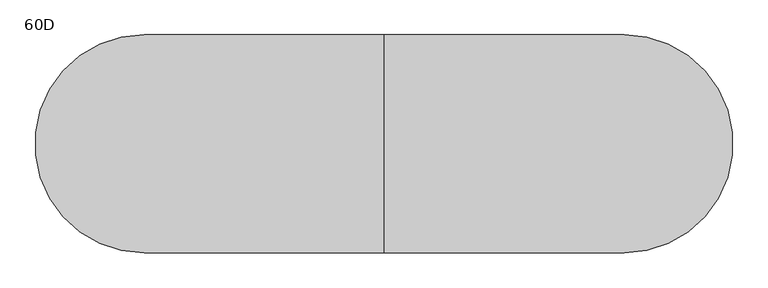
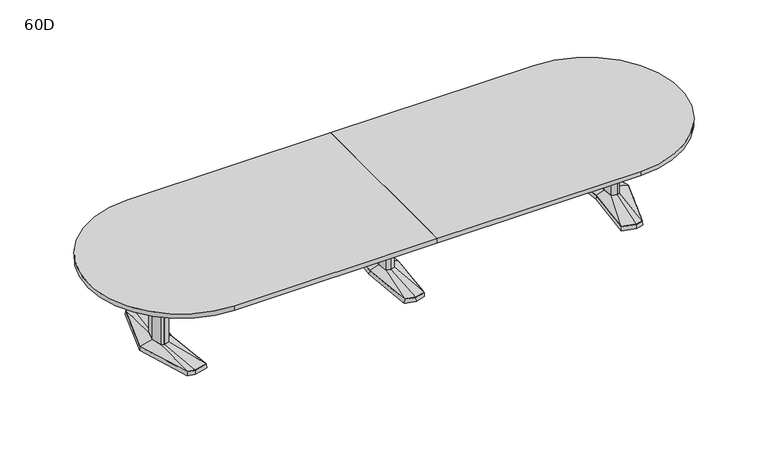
"""IFC4 building model written with IfcOpenShell, lengths in millimetres: furniture geometry, Coalesse_AM_Table_Conference_ETable2_Racetrack_16ft_AluminiumBase : 60D."""

from ifc_helpers import new_model, si_unit, point, frame, frame_2d, origin, place, context, project, spatial, polyline, circle_curve, trimmed, segment, composite_curve, outline, extrude, faceted_brep, source, transform, mapped, element, save
from ifc_brep_helpers import plane_surface, spline_surface, advanced_brep


def furniture_60d_3c0d05f1(model_context):
    return source(origin(), model_context, "Body", "SolidModel", [
        faceted_brep([(-81.2333791, -433.8053819, 38.1), (0.0, -455.556576, 38.1), (81.2333791, -433.8053819, 38.1), (119.0564774, 0.0, 38.1), (81.2333791, 433.8053819, 38.1), (0.0, 455.556576, 38.1), (-81.2333791, 433.8053819, 38.1), (-119.0564774, 0.0, 38.1), (-82.7182795, -435.0512063, 3.175), (-120.65, 0.0, 3.175), (-82.7182795, 435.0512063, 3.175), (0.0, 457.2, 3.175), (82.7182795, 435.0512063, 3.175), (120.65, 0.0, 3.175), (82.7182795, -435.0512063, 3.175), (0.0, -457.2, 3.175), (0.0, 429.2617927, 3.175), (-77.9676806, 408.3850278, 3.175), (-74.7019821, 382.9646737, 3.175), (0.0, 402.9670094, 3.175), (74.7019821, 382.9646737, 3.175), (77.9676806, 408.3850278, 3.175), (0.0, -429.2617927, 3.175), (77.9676806, -408.3850278, 3.175), (74.7019821, -382.9646737, 3.175), (0.0, -402.9670094, 3.175), (-74.7019821, -382.9646737, 3.175), (-77.9676806, -408.3850278, 3.175), (-71.8574262, 114.6326257, 3.175), (-82.5426076, 0.0, 3.175), (-71.8574262, -114.6326257, 3.175), (0.0, -133.8761372, 3.175), (71.8574262, -114.6326257, 3.175), (82.5426076, 0.0, 3.175), (71.8574262, 114.6326257, 3.175), (0.0, 133.8761372, 3.175), (0.0, 429.2617927, 0.0), (77.9676806, 408.3850278, 0.0), (74.7019821, 382.9646737, 0.0), (0.0, 402.9670094, 0.0), (-74.7019821, 382.9646737, 0.0), (-77.9676806, 408.3850278, 0.0), (0.0, -429.2617927, 0.0), (-77.9676806, -408.3850278, 0.0), (-74.7019821, -382.9646737, 0.0), (0.0, -402.9670094, 0.0), (74.7019821, -382.9646737, 0.0), (77.9676806, -408.3850278, 0.0), (-71.8574262, 114.6326257, 0.0), (0.0, 133.8761372, 0.0), (71.8574262, 114.6326257, 0.0), (82.5426076, 0.0, 0.0), (71.8574262, -114.6326257, 0.0), (0.0, -133.8761372, 0.0), (-71.8574262, -114.6326257, 0.0), (-82.5426076, 0.0, 0.0)], [[[0, 1, 2, 3, 4, 5, 6, 7]], [[8, 9, 10, 11, 12, 13, 14, 15], [16, 17, 18, 19, 20, 21], [22, 23, 24, 25, 26, 27], [28, 29, 30, 31, 32, 33, 34, 35]], [[1, 0, 8, 15]], [[2, 1, 15, 14]], [[3, 2, 14, 13]], [[4, 3, 13, 12]], [[5, 4, 12, 11]], [[6, 5, 11, 10]], [[7, 6, 10, 9]], [[0, 7, 9, 8]], [[36, 37, 38, 39, 40, 41]], [[42, 43, 44, 45, 46, 47]], [[48, 49, 50, 51, 52, 53, 54, 55]], [[36, 41, 17, 16]], [[41, 40, 18, 17]], [[40, 39, 19, 18]], [[39, 38, 20, 19]], [[38, 37, 21, 20]], [[37, 36, 16, 21]], [[42, 47, 23, 22]], [[47, 46, 24, 23]], [[46, 45, 25, 24]], [[45, 44, 26, 25]], [[44, 43, 27, 26]], [[43, 42, 22, 27]], [[48, 55, 29, 28]], [[55, 54, 30, 29]], [[54, 53, 31, 30]], [[53, 52, 32, 31]], [[52, 51, 33, 32]], [[51, 50, 34, 33]], [[50, 49, 35, 34]], [[49, 48, 28, 35]]]),
        faceted_brep([(-36.3832834, 84.6900825, 698.5), (-44.2774487, 0.0, 698.5), (-36.3832834, -84.6900825, 698.5), (0.0, -94.4335728, 698.5), (36.3832834, -84.6900825, 698.5), (44.2774487, 0.0, 698.5), (36.3832834, 84.6900825, 698.5), (0.0, 94.4335728, 698.5), (-36.3832834, 84.6900825, 63.5), (0.0, 94.4335728, 63.5), (36.3832834, 84.6900825, 63.5), (44.2774487, 0.0, 63.5), (36.3832834, -84.6900825, 63.5), (0.0, -94.4335728, 63.5), (-36.3832834, -84.6900825, 63.5), (-44.2774487, 0.0, 63.5)], [[[0, 1, 2, 3, 4, 5, 6, 7]], [[8, 9, 10, 11, 12, 13, 14, 15]], [[1, 0, 8, 15]], [[2, 1, 15, 14]], [[3, 2, 14, 13]], [[4, 3, 13, 12]], [[5, 4, 12, 11]], [[6, 5, 11, 10]], [[7, 6, 10, 9]], [[0, 7, 9, 8]]]),
        advanced_brep(
        [(-36.3832834, 84.6900825, 63.5), (-44.2774487, 0.0, 63.5), (-36.3832834, -84.6900825, 63.5), (0.0, -94.4335728, 63.5), (36.3832834, -84.6900825, 63.5), (44.2774487, 0.0, 63.5), (36.3832834, 84.6900825, 63.5), (0.0, 94.4335728, 63.5), (-81.2333791, 433.8053819, 38.1), (0.0, 455.556576, 38.1), (81.2333791, 433.8053819, 38.1), (119.0564774, 0.0, 38.1), (81.2333791, -433.8053819, 38.1), (0.0, -455.556576, 38.1), (-81.2333791, -433.8053819, 38.1), (-119.0564774, 0.0, 38.1)],
        [
            (0, 1),
            (1, 2),
            (2, 3),
            (3, 4),
            (4, 5),
            (5, 6),
            (6, 7),
            (7, 0),
            (8, 9),
            (9, 10),
            (10, 11),
            (11, 12),
            (12, 13),
            (13, 14),
            (14, 15),
            (15, 8),
            (15, 1),
            (0, 8),
            (14, 2),
            (13, 3),
            (12, 4),
            (11, 5),
            (10, 6),
            (9, 7),
        ],
        [
            plane_surface(frame((0.0, 0.0, 63.5), z_axis=(0.0, 0.0, 1.0000000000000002), x_axis=(-0.9659615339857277, -0.25868574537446, 0.0))),
            plane_surface(frame((0.0, 0.0, 38.1), z_axis=(0.0, 0.0, -1.0000000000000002), x_axis=(-0.9659615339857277, -0.25868574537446, 0.0))),
            spline_surface(1, 1, [[(-81.2333791, 433.8053819, 38.1), (-36.3832834, 84.6900825, 63.5)], [(-119.0564774, 0.0, 38.1), (-44.2774487, 0.0, 63.5)]], [2, 2], [2, 2], [0.0, 1.0], [0.0, 1.0]),
            spline_surface(1, 1, [[(-119.0564774, 0.0, 38.1), (-44.2774487, 0.0, 63.5)], [(-81.2333791, -433.8053819, 38.1), (-36.3832834, -84.6900825, 63.5)]], [2, 2], [2, 2], [0.0, 1.0], [0.0, 1.0]),
            spline_surface(1, 1, [[(-81.2333791, -433.8053819, 38.1), (-36.3832834, -84.6900825, 63.5)], [(0.0, -455.556576, 38.1), (0.0, -94.4335728, 63.5)]], [2, 2], [2, 2], [0.0, 1.0], [0.0, 1.0]),
            spline_surface(1, 1, [[(0.0, -455.556576, 38.1), (0.0, -94.4335728, 63.5)], [(81.2333791, -433.8053819, 38.1), (36.3832834, -84.6900825, 63.5)]], [2, 2], [2, 2], [0.0, 1.0], [0.0, 1.0]),
            spline_surface(1, 1, [[(81.2333791, -433.8053819, 38.1), (36.3832834, -84.6900825, 63.5)], [(119.0564774, 0.0, 38.1), (44.2774487, 0.0, 63.5)]], [2, 2], [2, 2], [0.0, 1.0], [0.0, 1.0]),
            spline_surface(1, 1, [[(119.0564774, 0.0, 38.1), (44.2774487, 0.0, 63.5)], [(81.2333791, 433.8053819, 38.1), (36.3832834, 84.6900825, 63.5)]], [2, 2], [2, 2], [0.0, 1.0], [0.0, 1.0]),
            spline_surface(1, 1, [[(81.2333791, 433.8053819, 38.1), (36.3832834, 84.6900825, 63.5)], [(0.0, 455.556576, 38.1), (0.0, 94.4335728, 63.5)]], [2, 2], [2, 2], [0.0, 1.0], [0.0, 1.0]),
            spline_surface(1, 1, [[(0.0, 455.556576, 38.1), (0.0, 94.4335728, 63.5)], [(-81.2333791, 433.8053819, 38.1), (-36.3832834, 84.6900825, 63.5)]], [2, 2], [2, 2], [0.0, 1.0], [0.0, 1.0]),
        ],
        [
            (0, [[1, 2, 3, 4, 5, 6, 7, 8]]),
            (1, [[9, 10, 11, 12, 13, 14, 15, 16]]),
            (2, [[-16, 17, -1, 18]]),
            (3, [[-15, 19, -2, -17]]),
            (4, [[-14, 20, -3, -19]]),
            (5, [[-13, 21, -4, -20]]),
            (6, [[-12, 22, -5, -21]]),
            (7, [[-11, 23, -6, -22]]),
            (8, [[-10, 24, -7, -23]]),
            (9, [[-9, -18, -8, -24]]),
        ],
    ),
        faceted_brep([(1820.2306835, 455.5848221, 38.1), (1710.6531277, 426.2263816, 38.1), (1751.8163717, 0.0, 38.1), (1710.6531277, -426.2263816, 38.1), (1820.2306835, -455.5848221, 38.1), (1876.3570396, -440.5478297, 38.1), (2013.6684269, 0.0, 38.1), (1876.3570396, 440.5478297, 38.1), (1820.2306754, 457.2283104, 3.175), (1877.6124472, 441.8549756, 3.175), (2015.33125, 0.0, 3.175), (1877.6124472, -441.8549756, 3.175), (1820.2306754, -457.2283104, 3.175), (1708.94375, -427.4118891, 3.175), (1750.2214856, 0.0, 3.175), (1708.94375, 427.4118891, 3.175), (1823.820115, 428.3273875, 3.175), (1718.7718228, 402.1057253, 3.175), (1726.890518, 377.985069, 3.175), (1827.4095466, 401.0699529, 3.175), (1877.9691725, 387.524361, 3.175), (1877.1631061, 414.0360954, 3.175), (1823.820115, -428.3273875, 3.175), (1877.1631061, -414.0360954, 3.175), (1877.9691725, -387.524361, 3.175), (1827.4095466, -401.0699529, 3.175), (1726.890518, -377.985069, 3.175), (1718.7718228, -402.1057253, 3.175), (1950.4153621, 0.0, 3.175), (1918.1459611, 120.4193755, 3.175), (1869.4987222, 133.471665, 3.175), (1789.6180526, 119.4176561, 3.175), (1778.4868466, 0.0, 3.175), (1789.6180526, -119.4176561, 3.175), (1869.4987222, -133.471665, 3.175), (1918.1459611, -120.4193755, 3.175), (1823.820115, 428.3273875, 0.0), (1877.1631061, 414.0360954, 0.0), (1877.9691725, 387.524361, 0.0), (1827.4095466, 401.0699529, 0.0), (1726.890518, 377.985069, 0.0), (1718.7718228, 402.1057253, 0.0), (1823.820115, -428.3273875, 0.0), (1718.7718228, -402.1057253, 0.0), (1726.890518, -377.985069, 0.0), (1827.4095466, -401.0699529, 0.0), (1877.9691725, -387.524361, 0.0), (1877.1631061, -414.0360954, 0.0), (1950.4153621, 0.0, 0.0), (1918.1459611, -120.4193755, 0.0), (1869.4987222, -133.471665, 0.0), (1789.6180526, -119.4176561, 0.0), (1778.4868466, 0.0, 0.0), (1789.6180526, 119.4176561, 0.0), (1869.4987222, 133.471665, 0.0), (1918.1459611, 120.4193755, 0.0)], [[[0, 1, 2, 3, 4, 5, 6, 7]], [[8, 9, 10, 11, 12, 13, 14, 15], [16, 17, 18, 19, 20, 21], [22, 23, 24, 25, 26, 27], [28, 29, 30, 31, 32, 33, 34, 35]], [[7, 9, 8, 0]], [[6, 10, 9, 7]], [[5, 11, 10, 6]], [[4, 12, 11, 5]], [[3, 13, 12, 4]], [[2, 14, 13, 3]], [[1, 15, 14, 2]], [[0, 8, 15, 1]], [[36, 37, 38, 39, 40, 41]], [[42, 43, 44, 45, 46, 47]], [[48, 49, 50, 51, 52, 53, 54, 55]], [[36, 16, 21, 37]], [[37, 21, 20, 38]], [[38, 20, 19, 39]], [[39, 19, 18, 40]], [[40, 18, 17, 41]], [[41, 17, 16, 36]], [[42, 22, 27, 43]], [[43, 27, 26, 44]], [[44, 26, 25, 45]], [[45, 25, 24, 46]], [[46, 24, 23, 47]], [[47, 23, 22, 42]], [[48, 28, 35, 49]], [[49, 35, 34, 50]], [[50, 34, 33, 51]], [[51, 33, 32, 52]], [[52, 32, 31, 53]], [[53, 31, 30, 54]], [[54, 30, 29, 55]], [[55, 29, 28, 48]]]),
        faceted_brep([(1910.9710836, 0.0, 698.5), (1887.0358546, 89.3188359, 698.5), (1870.1824984, 93.8406728, 698.5), (1867.7826511, 94.4845635, 698.5), (1824.855146, 86.9320037, 698.5), (1816.7520056, 0.0, 698.5), (1824.855146, -86.9320037, 698.5), (1867.7826511, -94.4845635, 698.5), (1870.1824984, -93.8406728, 698.5), (1887.0358546, -89.3188359, 698.5), (1910.9710836, 0.0, 63.5), (1887.0358546, -89.3188359, 63.5), (1870.1824984, -93.8406728, 63.5), (1867.7826511, -94.4845635, 63.5), (1824.855146, -86.9320037, 63.5), (1816.7520056, 0.0, 63.5), (1824.855146, 86.9320037, 63.5), (1867.7826511, 94.4845635, 63.5), (1870.1824984, 93.8406728, 63.5), (1887.0358546, 89.3188359, 63.5)], [[[0, 1, 2, 3, 4, 5, 6, 7, 8, 9]], [[10, 11, 12, 13, 14, 15, 16, 17, 18, 19]], [[9, 11, 10, 0]], [[8, 12, 11, 9]], [[7, 13, 12, 8]], [[6, 14, 13, 7]], [[5, 15, 14, 6]], [[4, 16, 15, 5]], [[3, 17, 16, 4]], [[2, 18, 17, 3]], [[1, 19, 18, 2]], [[0, 10, 19, 1]]]),
        advanced_brep(
        [(1867.7826511, 94.4845635, 63.5), (1824.855146, 86.9320037, 63.5), (1816.7520056, 0.0, 63.5), (1824.855146, -86.9320037, 63.5), (1867.7826511, -94.4845635, 63.5), (1887.0358546, -89.3188359, 63.5), (1910.9710836, 0.0, 63.5), (1887.0358546, 89.3188359, 63.5), (1820.2306835, 455.5848221, 38.1), (1876.3570396, 440.5478297, 38.1), (2013.6684269, 0.0, 38.1), (1876.3570396, -440.5478297, 38.1), (1820.2306835, -455.5848221, 38.1), (1710.6531277, -426.2263816, 38.1), (1751.8163717, 0.0, 38.1), (1710.6531277, 426.2263816, 38.1)],
        [
            (0, 1),
            (1, 2),
            (2, 3),
            (3, 4),
            (4, 5),
            (5, 6),
            (6, 7),
            (7, 0),
            (8, 9),
            (9, 10),
            (10, 11),
            (11, 12),
            (12, 13),
            (13, 14),
            (14, 15),
            (15, 8),
            (8, 0),
            (7, 9),
            (6, 10),
            (5, 11),
            (4, 12),
            (3, 13),
            (2, 14),
            (1, 15),
        ],
        [
            plane_surface(frame((1860.8837991, 0.0, 63.5), z_axis=(0.0, 0.0, 1.0), x_axis=(-0.25884244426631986, -0.9659195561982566, 0.0))),
            plane_surface(frame((1822.4958125, 0.0, 38.1), z_axis=(0.0, 0.0, -1.0), x_axis=(-0.25884244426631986, -0.9659195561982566, 0.0))),
            spline_surface(1, 1, [[(1820.2306835, 455.5848221, 38.1), (1876.3570396, 440.5478297, 38.1)], [(1867.7826511, 94.4845635, 63.5), (1887.0358546, 89.3188359, 63.5)]], [2, 2], [2, 2], [0.0, 1.0], [0.0, 1.0]),
            spline_surface(1, 1, [[(1876.3570396, 440.5478297, 38.1), (2013.6684269, 0.0, 38.1)], [(1887.0358546, 89.3188359, 63.5), (1910.9710836, 0.0, 63.5)]], [2, 2], [2, 2], [0.0, 1.0], [0.0, 1.0]),
            spline_surface(1, 1, [[(2013.6684269, 0.0, 38.1), (1876.3570396, -440.5478297, 38.1)], [(1910.9710836, 0.0, 63.5), (1887.0358546, -89.3188359, 63.5)]], [2, 2], [2, 2], [0.0, 1.0], [0.0, 1.0]),
            spline_surface(1, 1, [[(1876.3570396, -440.5478297, 38.1), (1820.2306835, -455.5848221, 38.1)], [(1887.0358546, -89.3188359, 63.5), (1867.7826511, -94.4845635, 63.5)]], [2, 2], [2, 2], [0.0, 1.0], [0.0, 1.0]),
            spline_surface(1, 1, [[(1820.2306835, -455.5848221, 38.1), (1710.6531277, -426.2263816, 38.1)], [(1867.7826511, -94.4845635, 63.5), (1824.855146, -86.9320037, 63.5)]], [2, 2], [2, 2], [0.0, 1.0], [0.0, 1.0]),
            spline_surface(1, 1, [[(1710.6531277, -426.2263816, 38.1), (1751.8163717, 0.0, 38.1)], [(1824.855146, -86.9320037, 63.5), (1816.7520056, 0.0, 63.5)]], [2, 2], [2, 2], [0.0, 1.0], [0.0, 1.0]),
            spline_surface(1, 1, [[(1751.8163717, 0.0, 38.1), (1710.6531277, 426.2263816, 38.1)], [(1816.7520056, 0.0, 63.5), (1824.855146, 86.9320037, 63.5)]], [2, 2], [2, 2], [0.0, 1.0], [0.0, 1.0]),
            spline_surface(1, 1, [[(1710.6531277, 426.2263816, 38.1), (1820.2306835, 455.5848221, 38.1)], [(1824.855146, 86.9320037, 63.5), (1867.7826511, 94.4845635, 63.5)]], [2, 2], [2, 2], [0.0, 1.0], [0.0, 1.0]),
        ],
        [
            (0, [[1, 2, 3, 4, 5, 6, 7, 8]]),
            (1, [[9, 10, 11, 12, 13, 14, 15, 16]]),
            (2, [[17, -8, 18, -9]]),
            (3, [[-18, -7, 19, -10]]),
            (4, [[-19, -6, 20, -11]]),
            (5, [[-20, -5, 21, -12]]),
            (6, [[-21, -4, 22, -13]]),
            (7, [[-22, -3, 23, -14]]),
            (8, [[-23, -2, 24, -15]]),
            (9, [[-24, -1, -17, -16]]),
        ],
    ),
        faceted_brep([(-1820.2306835, 455.5848221, 38.1), (-1876.3570396, 440.5478297, 38.1), (-2013.6684269, 0.0, 38.1), (-1876.3570396, -440.5478297, 38.1), (-1820.2306835, -455.5848221, 38.1), (-1710.6531277, -426.2263816, 38.1), (-1751.8163717, 0.0, 38.1), (-1710.6531277, 426.2263816, 38.1), (-1820.2306754, 457.2283104, 3.175), (-1708.94375, 427.4118891, 3.175), (-1750.2214856, 0.0, 3.175), (-1708.94375, -427.4118891, 3.175), (-1820.2306754, -457.2283104, 3.175), (-1877.6124472, -441.8549756, 3.175), (-2015.33125, 0.0, 3.175), (-1877.6124472, 441.8549756, 3.175), (-1823.820115, 428.3273875, 3.175), (-1877.1631061, 414.0360954, 3.175), (-1877.9691725, 387.524361, 3.175), (-1827.4095466, 401.0699529, 3.175), (-1726.890518, 377.985069, 3.175), (-1718.7718228, 402.1057253, 3.175), (-1823.820115, -428.3273875, 3.175), (-1718.7718228, -402.1057253, 3.175), (-1726.890518, -377.985069, 3.175), (-1827.4095466, -401.0699529, 3.175), (-1877.9691725, -387.524361, 3.175), (-1877.1631061, -414.0360954, 3.175), (-1950.4153621, 0.0, 3.175), (-1918.1459611, -120.4193755, 3.175), (-1869.4987222, -133.471665, 3.175), (-1789.6180526, -119.4176561, 3.175), (-1778.4868466, 0.0, 3.175), (-1789.6180526, 119.4176561, 3.175), (-1869.4987222, 133.471665, 3.175), (-1918.1459611, 120.4193755, 3.175), (-1823.820115, 428.3273875, 0.0), (-1718.7718228, 402.1057253, 0.0), (-1726.890518, 377.985069, 0.0), (-1827.4095466, 401.0699529, 0.0), (-1877.9691725, 387.524361, 0.0), (-1877.1631061, 414.0360954, 0.0), (-1823.820115, -428.3273875, 0.0), (-1877.1631061, -414.0360954, 0.0), (-1877.9691725, -387.524361, 0.0), (-1827.4095466, -401.0699529, 0.0), (-1726.890518, -377.985069, 0.0), (-1718.7718228, -402.1057253, 0.0), (-1950.4153621, 0.0, 0.0), (-1918.1459611, 120.4193755, 0.0), (-1869.4987222, 133.471665, 0.0), (-1789.6180526, 119.4176561, 0.0), (-1778.4868466, 0.0, 0.0), (-1789.6180526, -119.4176561, 0.0), (-1869.4987222, -133.471665, 0.0), (-1918.1459611, -120.4193755, 0.0)], [[[0, 1, 2, 3, 4, 5, 6, 7]], [[8, 9, 10, 11, 12, 13, 14, 15], [16, 17, 18, 19, 20, 21], [22, 23, 24, 25, 26, 27], [28, 29, 30, 31, 32, 33, 34, 35]], [[1, 0, 8, 15]], [[2, 1, 15, 14]], [[3, 2, 14, 13]], [[4, 3, 13, 12]], [[5, 4, 12, 11]], [[6, 5, 11, 10]], [[7, 6, 10, 9]], [[0, 7, 9, 8]], [[36, 37, 38, 39, 40, 41]], [[42, 43, 44, 45, 46, 47]], [[48, 49, 50, 51, 52, 53, 54, 55]], [[36, 41, 17, 16]], [[41, 40, 18, 17]], [[40, 39, 19, 18]], [[39, 38, 20, 19]], [[38, 37, 21, 20]], [[37, 36, 16, 21]], [[42, 47, 23, 22]], [[47, 46, 24, 23]], [[46, 45, 25, 24]], [[45, 44, 26, 25]], [[44, 43, 27, 26]], [[43, 42, 22, 27]], [[48, 55, 29, 28]], [[55, 54, 30, 29]], [[54, 53, 31, 30]], [[53, 52, 32, 31]], [[52, 51, 33, 32]], [[51, 50, 34, 33]], [[50, 49, 35, 34]], [[49, 48, 28, 35]]]),
        faceted_brep([(-1910.9710836, 0.0, 698.5), (-1887.0358546, -89.3188359, 698.5), (-1870.1824984, -93.8406728, 698.5), (-1867.7826511, -94.4845635, 698.5), (-1824.855146, -86.9320037, 698.5), (-1816.7520056, 0.0, 698.5), (-1824.855146, 86.9320037, 698.5), (-1867.7826511, 94.4845635, 698.5), (-1870.1824984, 93.8406728, 698.5), (-1887.0358546, 89.3188359, 698.5), (-1910.9710836, 0.0, 63.5), (-1887.0358546, 89.3188359, 63.5), (-1870.1824984, 93.8406728, 63.5), (-1867.7826511, 94.4845635, 63.5), (-1824.855146, 86.9320037, 63.5), (-1816.7520056, 0.0, 63.5), (-1824.855146, -86.9320037, 63.5), (-1867.7826511, -94.4845635, 63.5), (-1870.1824984, -93.8406728, 63.5), (-1887.0358546, -89.3188359, 63.5)], [[[0, 1, 2, 3, 4, 5, 6, 7, 8, 9]], [[10, 11, 12, 13, 14, 15, 16, 17, 18, 19]], [[1, 0, 10, 19]], [[2, 1, 19, 18]], [[3, 2, 18, 17]], [[4, 3, 17, 16]], [[5, 4, 16, 15]], [[6, 5, 15, 14]], [[7, 6, 14, 13]], [[8, 7, 13, 12]], [[9, 8, 12, 11]], [[0, 9, 11, 10]]]),
        advanced_brep(
        [(-1867.7826511, 94.4845635, 63.5), (-1887.0358546, 89.3188359, 63.5), (-1910.9710836, 0.0, 63.5), (-1887.0358546, -89.3188359, 63.5), (-1867.7826511, -94.4845635, 63.5), (-1824.855146, -86.9320037, 63.5), (-1816.7520056, 0.0, 63.5), (-1824.855146, 86.9320037, 63.5), (-1820.2306835, 455.5848221, 38.1), (-1710.6531277, 426.2263816, 38.1), (-1751.8163717, 0.0, 38.1), (-1710.6531277, -426.2263816, 38.1), (-1820.2306835, -455.5848221, 38.1), (-1876.3570396, -440.5478297, 38.1), (-2013.6684269, 0.0, 38.1), (-1876.3570396, 440.5478297, 38.1)],
        [
            (0, 1),
            (1, 2),
            (2, 3),
            (3, 4),
            (4, 5),
            (5, 6),
            (6, 7),
            (7, 0),
            (8, 9),
            (9, 10),
            (10, 11),
            (11, 12),
            (12, 13),
            (13, 14),
            (14, 15),
            (15, 8),
            (15, 1),
            (0, 8),
            (14, 2),
            (13, 3),
            (12, 4),
            (11, 5),
            (10, 6),
            (9, 7),
        ],
        [
            plane_surface(frame((-1860.8837991, 0.0, 63.5), z_axis=(0.0, 0.0, 1.0), x_axis=(0.25884244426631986, -0.9659195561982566, 0.0))),
            plane_surface(frame((-1822.4958125, 0.0, 38.1), z_axis=(0.0, 0.0, -1.0), x_axis=(0.25884244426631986, -0.9659195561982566, 0.0))),
            spline_surface(1, 1, [[(-1820.2306835, 455.5848221, 38.1), (-1867.7826511, 94.4845635, 63.5)], [(-1876.3570396, 440.5478297, 38.1), (-1887.0358546, 89.3188359, 63.5)]], [2, 2], [2, 2], [0.0, 1.0], [0.0, 1.0]),
            spline_surface(1, 1, [[(-1876.3570396, 440.5478297, 38.1), (-1887.0358546, 89.3188359, 63.5)], [(-2013.6684269, 0.0, 38.1), (-1910.9710836, 0.0, 63.5)]], [2, 2], [2, 2], [0.0, 1.0], [0.0, 1.0]),
            spline_surface(1, 1, [[(-2013.6684269, 0.0, 38.1), (-1910.9710836, 0.0, 63.5)], [(-1876.3570396, -440.5478297, 38.1), (-1887.0358546, -89.3188359, 63.5)]], [2, 2], [2, 2], [0.0, 1.0], [0.0, 1.0]),
            spline_surface(1, 1, [[(-1876.3570396, -440.5478297, 38.1), (-1887.0358546, -89.3188359, 63.5)], [(-1820.2306835, -455.5848221, 38.1), (-1867.7826511, -94.4845635, 63.5)]], [2, 2], [2, 2], [0.0, 1.0], [0.0, 1.0]),
            spline_surface(1, 1, [[(-1820.2306835, -455.5848221, 38.1), (-1867.7826511, -94.4845635, 63.5)], [(-1710.6531277, -426.2263816, 38.1), (-1824.855146, -86.9320037, 63.5)]], [2, 2], [2, 2], [0.0, 1.0], [0.0, 1.0]),
            spline_surface(1, 1, [[(-1710.6531277, -426.2263816, 38.1), (-1824.855146, -86.9320037, 63.5)], [(-1751.8163717, 0.0, 38.1), (-1816.7520056, 0.0, 63.5)]], [2, 2], [2, 2], [0.0, 1.0], [0.0, 1.0]),
            spline_surface(1, 1, [[(-1751.8163717, 0.0, 38.1), (-1816.7520056, 0.0, 63.5)], [(-1710.6531277, 426.2263816, 38.1), (-1824.855146, 86.9320037, 63.5)]], [2, 2], [2, 2], [0.0, 1.0], [0.0, 1.0]),
            spline_surface(1, 1, [[(-1710.6531277, 426.2263816, 38.1), (-1824.855146, 86.9320037, 63.5)], [(-1820.2306835, 455.5848221, 38.1), (-1867.7826511, 94.4845635, 63.5)]], [2, 2], [2, 2], [0.0, 1.0], [0.0, 1.0]),
        ],
        [
            (0, [[1, 2, 3, 4, 5, 6, 7, 8]]),
            (1, [[9, 10, 11, 12, 13, 14, 15, 16]]),
            (2, [[-16, 17, -1, 18]]),
            (3, [[-15, 19, -2, -17]]),
            (4, [[-14, 20, -3, -19]]),
            (5, [[-13, 21, -4, -20]]),
            (6, [[-12, 22, -5, -21]]),
            (7, [[-11, 23, -6, -22]]),
            (8, [[-10, 24, -7, -23]]),
            (9, [[-9, -18, -8, -24]]),
        ],
    ),
        extrude(outline(polyline([(96.8375, 698.5), (103.1875, 698.5), (103.1875, 476.25), (-103.1875, 476.25), (-103.1875, 698.5), (-96.8375, 698.5), (-96.8375, 482.6), (96.8375, 482.6), (96.8375, 698.5)])), frame((44.2774487, 0.0, 0.0), z_axis=(1.0, 0.0, 0.0), x_axis=(0.0, 1.0, 0.0)), (0.0, 0.0, 1.0), 1772.6163013),
        extrude(outline(composite_curve([segment(trimmed(circle_curve(frame_2d((1676.4, 0.0)), 762.0), [point((1676.4, 762.0))], [point((1676.4, -762.0))], False, "CARTESIAN"), True, "CONTINUOUS"), segment(polyline([(1676.4, -762.0), (0.0, -762.0), (0.0, 762.0), (1676.4, 762.0)]), True, "CONTINUOUS")], self_intersect=False)), frame((0.0, 0.0, 698.5), z_axis=(0.0, 0.0, 1.0), x_axis=(1.0, 0.0, 0.0)), (0.0, 0.0, 1.0), 38.1),
        extrude(outline(composite_curve([segment(polyline([(0.0, 762.0), (0.0, -762.0), (-1676.4, -762.0)]), True, "CONTINUOUS"), segment(trimmed(circle_curve(frame_2d((-1676.4, 0.0)), 762.0), [point((-1676.4, -762.0))], [point((-1676.4, 762.0))], False, "CARTESIAN"), True, "CONTINUOUS"), segment(polyline([(-1676.4, 762.0), (0.0, 762.0)]), True, "CONTINUOUS")], self_intersect=False)), frame((0.0, 0.0, 698.5), z_axis=(0.0, 0.0, 1.0), x_axis=(1.0, 0.0, 0.0)), (0.0, 0.0, 1.0), 38.1),
        extrude(outline(polyline([(96.8375, 698.5), (103.1875, 698.5), (103.1875, 476.25), (-103.1875, 476.25), (-103.1875, 698.5), (-96.8375, 698.5), (-96.8375, 482.6), (96.8375, 482.6), (96.8375, 698.5)])), frame((-1816.89375, 0.0, 0.0), z_axis=(1.0, 0.0, 0.0), x_axis=(0.0, 1.0, 0.0)), (0.0, 0.0, 1.0), 1772.6163013),
    ])


if __name__ == "__main__":
    model = new_model("IFC4")
    model_context = context("Model", 3, world=origin())
    ifc_project = project(units=[si_unit("LENGTHUNIT", "METRE", prefix="MILLI")], contexts=[model_context])
    site = spatial("IfcSite", under=ifc_project)
    building = spatial("IfcBuilding", under=site)
    placement = place(None, origin())
    furniture_60d_shape = furniture_60d_3c0d05f1(model_context)
    element("IfcFurniture", 1, ObjectType="Coalesse_AM_Table_Conference_ETable2_Racetrack_16ft_AluminiumBase : 60D", at=placement, inside=building, context=model_context, shape_type="MappedRepresentation", body=[
        mapped(furniture_60d_shape, transform((0.0, 0.0, 0.0), x_axis=(1.0, 0.0, 0.0), y_axis=(0.0, 1.0, 0.0), z_axis=(0.0, 0.0, 1.0))),
    ])
    save(model, "model.ifc")
